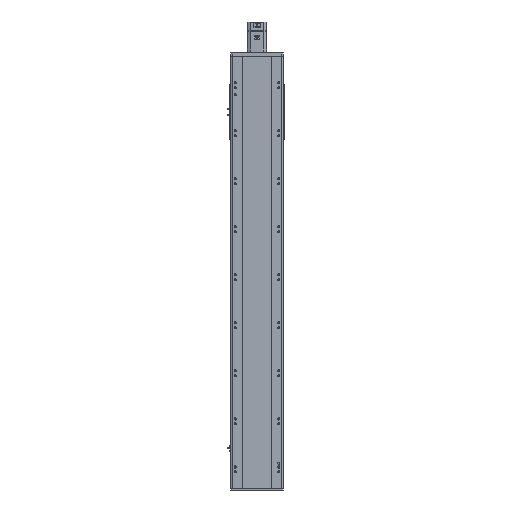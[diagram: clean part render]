
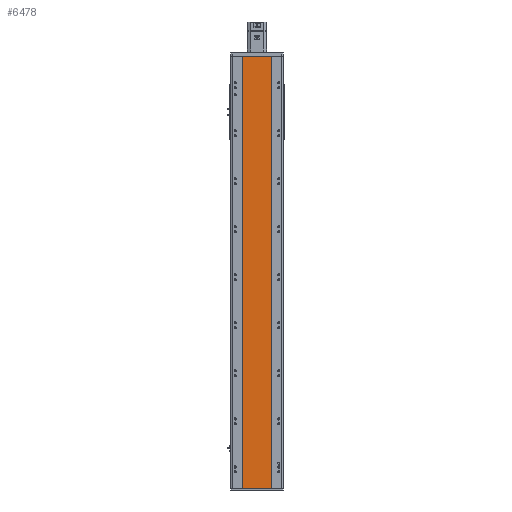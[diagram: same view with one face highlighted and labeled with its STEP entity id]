
A CAD part, front view. The second image highlights one B-rep face of the part: STEP entity #6478.
In plain terms, the highlighted planar face has unit normal (0, -1, 0).
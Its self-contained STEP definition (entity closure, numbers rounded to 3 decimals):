
#763 = CARTESIAN_POINT ( 'NONE',  ( -59., 1., 900.5 ) ) ;
#1741 = DIRECTION ( 'NONE',  ( 1., 0., 0. ) ) ;
#3089 = VERTEX_POINT ( 'NONE', #763 ) ;
#4217 = AXIS2_PLACEMENT_3D ( 'NONE', #5103, #39416, #24038 ) ;
#4385 = LINE ( 'NONE', #39064, #36590 ) ;
#5103 = CARTESIAN_POINT ( 'NONE',  ( -59., 1., 900.5 ) ) ;
#6478 = ADVANCED_FACE ( 'NONE', ( #35883 ), #33439, .F. ) ;
#8489 = ORIENTED_EDGE ( 'NONE', *, *, #37853, .F. ) ;
#10761 = EDGE_CURVE ( 'NONE', #3089, #20360, #37516, .T. ) ;
#12166 = VERTEX_POINT ( 'NONE', #13450 ) ;
#13450 = CARTESIAN_POINT ( 'NONE',  ( 59., 1., 900.5 ) ) ;
#16300 = CARTESIAN_POINT ( 'NONE',  ( -59., 1., 900.5 ) ) ;
#16558 = DIRECTION ( 'NONE',  ( 0., 0., -1. ) ) ;
#18487 = VECTOR ( 'NONE', #16558, 1000. ) ;
#18928 = EDGE_LOOP ( 'NONE', ( #38552, #8489, #28137, #19081 ) ) ;
#19081 = ORIENTED_EDGE ( 'NONE', *, *, #10761, .T. ) ;
#20360 = VERTEX_POINT ( 'NONE', #35562 ) ;
#20717 = EDGE_CURVE ( 'NONE', #3089, #12166, #4385, .T. ) ;
#22144 = DIRECTION ( 'NONE',  ( 1., 0., 0. ) ) ;
#24038 = DIRECTION ( 'NONE',  ( -1., 0., 0. ) ) ;
#28137 = ORIENTED_EDGE ( 'NONE', *, *, #20717, .F. ) ;
#28983 = LINE ( 'NONE', #30767, #30958 ) ;
#30381 = LINE ( 'NONE', #34540, #33352 ) ;
#30533 = EDGE_CURVE ( 'NONE', #20360, #36073, #30381, .T. ) ;
#30767 = CARTESIAN_POINT ( 'NONE',  ( 59., 1., 900.5 ) ) ;
#30958 = VECTOR ( 'NONE', #36955, 1000. ) ;
#33352 = VECTOR ( 'NONE', #22144, 1000. ) ;
#33439 = PLANE ( 'NONE',  #4217 ) ;
#34540 = CARTESIAN_POINT ( 'NONE',  ( -59., 1., -900.5 ) ) ;
#35562 = CARTESIAN_POINT ( 'NONE',  ( -59., 1., -900.5 ) ) ;
#35883 = FACE_OUTER_BOUND ( 'NONE', #18928, .T. ) ;
#36073 = VERTEX_POINT ( 'NONE', #36486 ) ;
#36486 = CARTESIAN_POINT ( 'NONE',  ( 59., 1., -900.5 ) ) ;
#36590 = VECTOR ( 'NONE', #1741, 1000. ) ;
#36955 = DIRECTION ( 'NONE',  ( 0., 0., -1. ) ) ;
#37516 = LINE ( 'NONE', #16300, #18487 ) ;
#37853 = EDGE_CURVE ( 'NONE', #12166, #36073, #28983, .T. ) ;
#38552 = ORIENTED_EDGE ( 'NONE', *, *, #30533, .T. ) ;
#39064 = CARTESIAN_POINT ( 'NONE',  ( -59., 1., 900.5 ) ) ;
#39416 = DIRECTION ( 'NONE',  ( 0., 1., 0. ) ) ;
